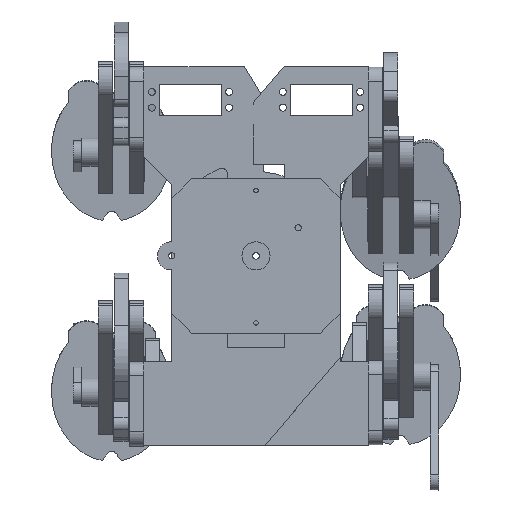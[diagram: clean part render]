
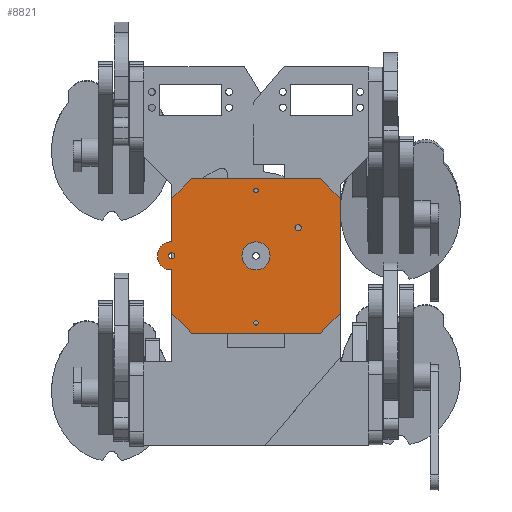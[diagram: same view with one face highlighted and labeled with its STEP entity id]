
A CAD part, top view. The second image highlights one B-rep face of the part: STEP entity #8821.
In plain terms, the highlighted planar face has unit normal (0, 0, 1).
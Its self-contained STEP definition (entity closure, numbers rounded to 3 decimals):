
#477=FACE_BOUND('',#1511,.T.);
#478=FACE_BOUND('',#1512,.T.);
#479=FACE_BOUND('',#1513,.T.);
#480=FACE_BOUND('',#1514,.T.);
#481=FACE_BOUND('',#1515,.T.);
#693=PLANE('',#9923);
#1009=FACE_OUTER_BOUND('',#1510,.T.);
#1510=EDGE_LOOP('',(#6583,#6584,#6585,#6586,#6587,#6588,#6589,#6590,#6591,
#6592,#6593,#6594,#6595,#6596));
#1511=EDGE_LOOP('',(#6597));
#1512=EDGE_LOOP('',(#6598));
#1513=EDGE_LOOP('',(#6599));
#1514=EDGE_LOOP('',(#6600));
#1515=EDGE_LOOP('',(#6601));
#2238=LINE('',#13696,#3120);
#2239=LINE('',#13698,#3121);
#2240=LINE('',#13700,#3122);
#2241=LINE('',#13702,#3123);
#2242=LINE('',#13704,#3124);
#2243=LINE('',#13706,#3125);
#2244=LINE('',#13708,#3126);
#2245=LINE('',#13710,#3127);
#2246=LINE('',#13712,#3128);
#2247=LINE('',#13716,#3129);
#2248=LINE('',#13720,#3130);
#2249=LINE('',#13721,#3131);
#3120=VECTOR('',#11074,18.);
#3121=VECTOR('',#11075,18.);
#3122=VECTOR('',#11076,18.);
#3123=VECTOR('',#11077,18.);
#3124=VECTOR('',#11078,18.);
#3125=VECTOR('',#11079,18.);
#3126=VECTOR('',#11080,18.);
#3127=VECTOR('',#11081,18.);
#3128=VECTOR('',#11082,18.);
#3129=VECTOR('',#11085,18.);
#3130=VECTOR('',#11088,18.);
#3131=VECTOR('',#11089,18.);
#3861=CIRCLE('',#9924,8.1);
#3862=CIRCLE('',#9925,8.1);
#3863=CIRCLE('',#9926,1.4);
#3864=CIRCLE('',#9927,1.4);
#3865=CIRCLE('',#9928,1.995);
#3866=CIRCLE('',#9929,1.995);
#3867=CIRCLE('',#9930,9.);
#4273=VERTEX_POINT('',#13694);
#4274=VERTEX_POINT('',#13695);
#4275=VERTEX_POINT('',#13697);
#4276=VERTEX_POINT('',#13699);
#4277=VERTEX_POINT('',#13701);
#4278=VERTEX_POINT('',#13703);
#4279=VERTEX_POINT('',#13705);
#4280=VERTEX_POINT('',#13707);
#4281=VERTEX_POINT('',#13709);
#4282=VERTEX_POINT('',#13711);
#4283=VERTEX_POINT('',#13713);
#4284=VERTEX_POINT('',#13715);
#4285=VERTEX_POINT('',#13717);
#4286=VERTEX_POINT('',#13719);
#4287=VERTEX_POINT('',#13722);
#4288=VERTEX_POINT('',#13724);
#4289=VERTEX_POINT('',#13726);
#4290=VERTEX_POINT('',#13728);
#4291=VERTEX_POINT('',#13730);
#5155=EDGE_CURVE('',#4273,#4274,#2238,.T.);
#5156=EDGE_CURVE('',#4273,#4275,#2239,.F.);
#5157=EDGE_CURVE('',#4276,#4275,#2240,.T.);
#5158=EDGE_CURVE('',#4276,#4277,#2241,.F.);
#5159=EDGE_CURVE('',#4278,#4277,#2242,.T.);
#5160=EDGE_CURVE('',#4278,#4279,#2243,.F.);
#5161=EDGE_CURVE('',#4280,#4279,#2244,.T.);
#5162=EDGE_CURVE('',#4280,#4281,#2245,.F.);
#5163=EDGE_CURVE('',#4281,#4282,#2246,.T.);
#5164=EDGE_CURVE('',#4283,#4282,#3861,.T.);
#5165=EDGE_CURVE('',#4284,#4283,#2247,.T.);
#5166=EDGE_CURVE('',#4285,#4284,#3862,.T.);
#5167=EDGE_CURVE('',#4286,#4285,#2248,.T.);
#5168=EDGE_CURVE('',#4286,#4274,#2249,.F.);
#5169=EDGE_CURVE('',#4287,#4287,#3863,.T.);
#5170=EDGE_CURVE('',#4288,#4288,#3864,.T.);
#5171=EDGE_CURVE('',#4289,#4289,#3865,.T.);
#5172=EDGE_CURVE('',#4290,#4290,#3866,.T.);
#5173=EDGE_CURVE('',#4291,#4291,#3867,.T.);
#6583=ORIENTED_EDGE('',*,*,#5155,.F.);
#6584=ORIENTED_EDGE('',*,*,#5156,.T.);
#6585=ORIENTED_EDGE('',*,*,#5157,.F.);
#6586=ORIENTED_EDGE('',*,*,#5158,.T.);
#6587=ORIENTED_EDGE('',*,*,#5159,.F.);
#6588=ORIENTED_EDGE('',*,*,#5160,.T.);
#6589=ORIENTED_EDGE('',*,*,#5161,.F.);
#6590=ORIENTED_EDGE('',*,*,#5162,.T.);
#6591=ORIENTED_EDGE('',*,*,#5163,.T.);
#6592=ORIENTED_EDGE('',*,*,#5164,.F.);
#6593=ORIENTED_EDGE('',*,*,#5165,.F.);
#6594=ORIENTED_EDGE('',*,*,#5166,.F.);
#6595=ORIENTED_EDGE('',*,*,#5167,.F.);
#6596=ORIENTED_EDGE('',*,*,#5168,.T.);
#6597=ORIENTED_EDGE('',*,*,#5169,.T.);
#6598=ORIENTED_EDGE('',*,*,#5170,.T.);
#6599=ORIENTED_EDGE('',*,*,#5171,.T.);
#6600=ORIENTED_EDGE('',*,*,#5172,.T.);
#6601=ORIENTED_EDGE('',*,*,#5173,.T.);
#8821=ADVANCED_FACE('',(#1009,#477,#478,#479,#480,#481),#693,.T.);
#9923=AXIS2_PLACEMENT_3D('',#13693,#11072,#11073);
#9924=AXIS2_PLACEMENT_3D('',#13714,#11083,#11084);
#9925=AXIS2_PLACEMENT_3D('',#13718,#11086,#11087);
#9926=AXIS2_PLACEMENT_3D('',#13723,#11090,#11091);
#9927=AXIS2_PLACEMENT_3D('',#13725,#11092,#11093);
#9928=AXIS2_PLACEMENT_3D('',#13727,#11094,#11095);
#9929=AXIS2_PLACEMENT_3D('',#13729,#11096,#11097);
#9930=AXIS2_PLACEMENT_3D('',#13731,#11098,#11099);
#11072=DIRECTION('center_axis',(0.,0.,1.));
#11073=DIRECTION('ref_axis',(1.,0.,0.));
#11074=DIRECTION('',(-0.707,0.707,0.));
#11075=DIRECTION('',(-1.,0.,0.));
#11076=DIRECTION('',(-0.707,-0.707,0.));
#11077=DIRECTION('',(0.,-1.,0.));
#11078=DIRECTION('',(0.707,-0.707,0.));
#11079=DIRECTION('',(1.,0.,0.));
#11080=DIRECTION('',(0.707,0.707,0.));
#11081=DIRECTION('',(0.,1.,0.));
#11082=DIRECTION('',(-1.,0.,0.));
#11083=DIRECTION('center_axis',(0.,0.,-1.));
#11084=DIRECTION('ref_axis',(-0.707,0.707,0.));
#11085=DIRECTION('',(0.,1.,0.));
#11086=DIRECTION('center_axis',(0.,0.,-1.));
#11087=DIRECTION('ref_axis',(-0.707,-0.707,0.));
#11088=DIRECTION('',(-1.,0.,0.));
#11089=DIRECTION('',(0.,1.,0.));
#11090=DIRECTION('center_axis',(0.,0.,-1.));
#11091=DIRECTION('ref_axis',(-1.,0.,0.));
#11092=DIRECTION('center_axis',(0.,0.,-1.));
#11093=DIRECTION('ref_axis',(-1.,0.,0.));
#11094=DIRECTION('center_axis',(0.,0.,-1.));
#11095=DIRECTION('ref_axis',(-1.,0.,0.));
#11096=DIRECTION('center_axis',(0.,0.,-1.));
#11097=DIRECTION('ref_axis',(-1.,0.,0.));
#11098=DIRECTION('center_axis',(0.,0.,-1.));
#11099=DIRECTION('ref_axis',(-1.,0.,0.));
#13693=CARTESIAN_POINT('Origin',(44.4,48.666,80.376));
#13694=CARTESIAN_POINT('',(3.,-0.834,80.376));
#13695=CARTESIAN_POINT('',(-9.6,11.766,80.376));
#13696=CARTESIAN_POINT('',(-2.175,4.341,80.376));
#13697=CARTESIAN_POINT('',(85.8,-0.834,80.376));
#13698=CARTESIAN_POINT('',(35.4,-0.834,80.376));
#13699=CARTESIAN_POINT('',(98.4,11.766,80.376));
#13700=CARTESIAN_POINT('',(90.975,4.341,80.376));
#13701=CARTESIAN_POINT('',(98.4,85.566,80.376));
#13702=CARTESIAN_POINT('',(98.4,35.166,80.376));
#13703=CARTESIAN_POINT('',(85.8,98.166,80.376));
#13704=CARTESIAN_POINT('',(90.975,92.991,80.376));
#13705=CARTESIAN_POINT('',(3.,98.166,80.376));
#13706=CARTESIAN_POINT('',(53.4,98.166,80.376));
#13707=CARTESIAN_POINT('',(-9.6,85.566,80.376));
#13708=CARTESIAN_POINT('',(-2.175,92.991,80.376));
#13709=CARTESIAN_POINT('',(-9.6,57.666,80.376));
#13710=CARTESIAN_POINT('',(-9.6,62.166,80.376));
#13711=CARTESIAN_POINT('',(-10.5,57.666,80.376));
#13712=CARTESIAN_POINT('',(8.4,57.666,80.376));
#13713=CARTESIAN_POINT('',(-18.6,49.566,80.376));
#13714=CARTESIAN_POINT('Origin',(-10.5,49.566,80.376));
#13715=CARTESIAN_POINT('',(-18.6,47.766,80.376));
#13716=CARTESIAN_POINT('',(-18.6,8.166,80.376));
#13717=CARTESIAN_POINT('',(-10.5,39.666,80.376));
#13718=CARTESIAN_POINT('Origin',(-10.5,47.766,80.376));
#13719=CARTESIAN_POINT('',(-9.6,39.666,80.376));
#13720=CARTESIAN_POINT('',(8.4,39.666,80.376));
#13721=CARTESIAN_POINT('',(-9.6,62.166,80.376));
#13722=CARTESIAN_POINT('',(45.8,5.666,80.376));
#13723=CARTESIAN_POINT('Origin',(44.4,5.666,80.376));
#13724=CARTESIAN_POINT('',(45.8,90.666,80.376));
#13725=CARTESIAN_POINT('Origin',(44.4,90.666,80.376));
#13726=CARTESIAN_POINT('',(-7.605,48.666,80.376));
#13727=CARTESIAN_POINT('Origin',(-9.6,48.666,80.376));
#13728=CARTESIAN_POINT('',(73.395,66.666,80.376));
#13729=CARTESIAN_POINT('Origin',(71.4,66.666,80.376));
#13730=CARTESIAN_POINT('',(53.4,48.666,80.376));
#13731=CARTESIAN_POINT('Origin',(44.4,48.666,80.376));
